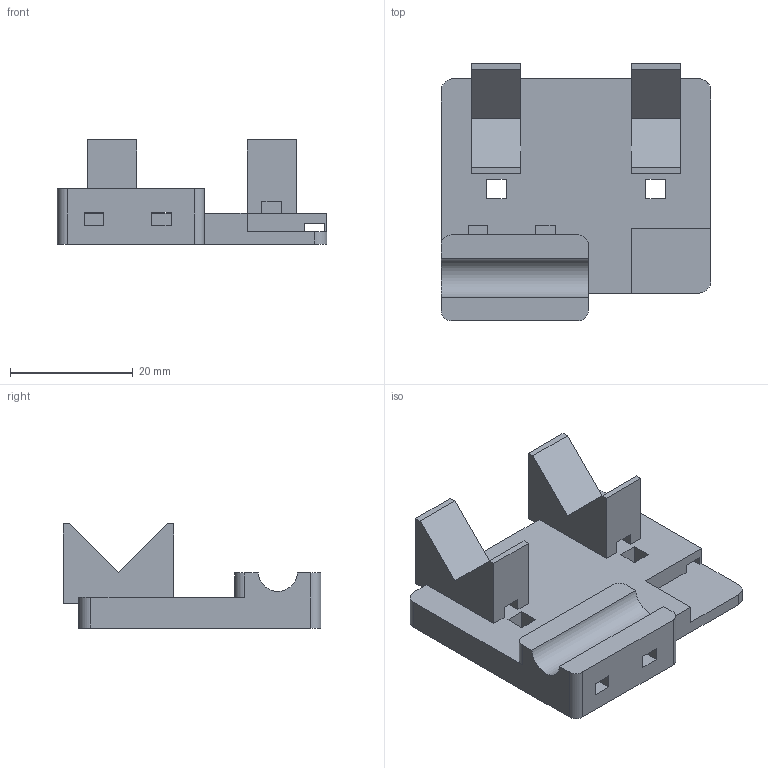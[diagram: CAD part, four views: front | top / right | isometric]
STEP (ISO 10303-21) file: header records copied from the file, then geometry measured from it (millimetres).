
FILE_DESCRIPTION(('Open CASCADE Model'),'2;1');
FILE_NAME('Open CASCADE Shape Model','2026-10-21T17:27:38',('Author'),( 'Open CASCADE'),'Open CASCADE STEP processor 7.9','Open CASCADE 7.9' ,'Unknown');
FILE_SCHEMA(('AUTOMOTIVE_DESIGN { 1 0 10303 214 1 1 1 1 }'));
Length unit declared in the file: millimetre
Products named in the file (1): Open CASCADE STEP translator 7.9 8
Bounding box: 44 x 42 x 17 mm (x, y, z)
Volume: 10535.1 mm3; surface area: 6451.8 mm2
Topology: 1 solids, 1 shells, 83 faces, 261 edges, 174 vertices
Faces by surface type: plane 75, cylinder 8
Entity records: 6253 total; most frequent: CARTESIAN_POINT 1145, DIRECTION 910, LINE 697, VECTOR 697, ORIENTED_EDGE 522, PCURVE 522, DEFINITIONAL_REPRESENTATION 522, EDGE_CURVE 261
